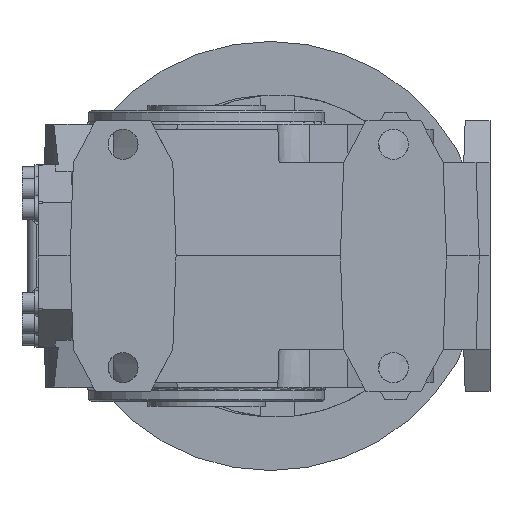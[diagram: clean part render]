
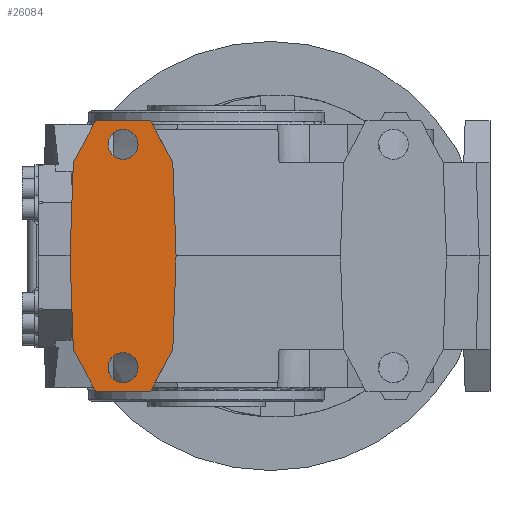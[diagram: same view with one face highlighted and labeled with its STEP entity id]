
A CAD part, left-side view. The second image highlights one B-rep face of the part: STEP entity #26084.
In plain terms, the highlighted planar face has unit normal (-1, 0, 0) as drawn and (1, 0, 0) by its records, which use the part's own axes.
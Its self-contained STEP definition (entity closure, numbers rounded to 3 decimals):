
#20907 = VERTEX_POINT('',#20908);
#20908 = CARTESIAN_POINT('',(262.,59.201,-63.));
#20914 = EDGE_CURVE('',#20915,#20907,#20917,.T.);
#20915 = VERTEX_POINT('',#20916);
#20916 = CARTESIAN_POINT('',(262.,48.818,-43.474));
#20917 = LINE('',#20918,#20919);
#20918 = CARTESIAN_POINT('',(262.,48.818,-43.474));
#20919 = VECTOR('',#20920,1.);
#20920 = DIRECTION('',(0.,0.469,-0.883));
#21306 = VERTEX_POINT('',#21307);
#21307 = CARTESIAN_POINT('',(262.,84.799,-63.));
#21313 = EDGE_CURVE('',#20907,#21306,#21314,.T.);
#21314 = LINE('',#21315,#21316);
#21315 = CARTESIAN_POINT('',(262.,59.201,-63.));
#21316 = VECTOR('',#21317,1.);
#21317 = DIRECTION('',(0.,1.,0.));
#21330 = VERTEX_POINT('',#21331);
#21331 = CARTESIAN_POINT('',(262.,95.182,-43.474));
#21337 = EDGE_CURVE('',#21306,#21330,#21338,.T.);
#21338 = LINE('',#21339,#21340);
#21339 = CARTESIAN_POINT('',(262.,84.799,-63.));
#21340 = VECTOR('',#21341,1.);
#21341 = DIRECTION('',(0.,0.469,0.883));
#21387 = VERTEX_POINT('',#21388);
#21388 = CARTESIAN_POINT('',(262.,96.7,0.));
#21394 = EDGE_CURVE('',#21330,#21387,#21395,.T.);
#21395 = LINE('',#21396,#21397);
#21396 = CARTESIAN_POINT('',(262.,95.182,-43.474));
#21397 = VECTOR('',#21398,1.);
#21398 = DIRECTION('',(0.,0.035,0.999));
#21492 = VERTEX_POINT('',#21493);
#21493 = CARTESIAN_POINT('',(262.,59.201,63.));
#21499 = EDGE_CURVE('',#21500,#21492,#21502,.T.);
#21500 = VERTEX_POINT('',#21501);
#21501 = CARTESIAN_POINT('',(262.,84.799,63.));
#21502 = LINE('',#21503,#21504);
#21503 = CARTESIAN_POINT('',(262.,84.799,63.));
#21504 = VECTOR('',#21505,1.);
#21505 = DIRECTION('',(0.,-1.,0.));
#21562 = VERTEX_POINT('',#21563);
#21563 = CARTESIAN_POINT('',(262.,48.818,43.474));
#21569 = EDGE_CURVE('',#21492,#21562,#21570,.T.);
#21570 = LINE('',#21571,#21572);
#21571 = CARTESIAN_POINT('',(262.,59.201,63.));
#21572 = VECTOR('',#21573,1.);
#21573 = DIRECTION('',(0.,-0.469,-0.883));
#21619 = VERTEX_POINT('',#21620);
#21620 = CARTESIAN_POINT('',(262.,95.182,43.474));
#21626 = EDGE_CURVE('',#21387,#21619,#21627,.T.);
#21627 = LINE('',#21628,#21629);
#21628 = CARTESIAN_POINT('',(262.,96.7,0.));
#21629 = VECTOR('',#21630,1.);
#21630 = DIRECTION('',(0.,-0.035,0.999));
#21679 = EDGE_CURVE('',#21619,#21500,#21680,.T.);
#21680 = LINE('',#21681,#21682);
#21681 = CARTESIAN_POINT('',(262.,95.182,43.474));
#21682 = VECTOR('',#21683,1.);
#21683 = DIRECTION('',(0.,-0.469,0.883));
#26050 = VERTEX_POINT('',#26051);
#26051 = CARTESIAN_POINT('',(262.,47.3,0.));
#26057 = EDGE_CURVE('',#21562,#26050,#26058,.T.);
#26058 = LINE('',#26059,#26060);
#26059 = CARTESIAN_POINT('',(262.,48.818,43.474));
#26060 = VECTOR('',#26061,1.);
#26061 = DIRECTION('',(0.,-0.035,-0.999));
#26074 = EDGE_CURVE('',#26050,#20915,#26075,.T.);
#26075 = LINE('',#26076,#26077);
#26076 = CARTESIAN_POINT('',(262.,47.3,0.));
#26077 = VECTOR('',#26078,1.);
#26078 = DIRECTION('',(0.,0.035,-0.999));
#26084 = ADVANCED_FACE('',(#26085,#26096,#26107),#26119,.T.);
#26085 = FACE_BOUND('',#26086,.T.);
#26086 = EDGE_LOOP('',(#26087));
#26087 = ORIENTED_EDGE('',*,*,#26088,.F.);
#26088 = EDGE_CURVE('',#26089,#26089,#26091,.T.);
#26089 = VERTEX_POINT('',#26090);
#26090 = CARTESIAN_POINT('',(262.,72.,45.));
#26091 = CIRCLE('',#26092,7.);
#26092 = AXIS2_PLACEMENT_3D('',#26093,#26094,#26095);
#26093 = CARTESIAN_POINT('',(262.,72.,52.));
#26094 = DIRECTION('',(1.,0.,0.));
#26095 = DIRECTION('',(0.,0.,-1.));
#26096 = FACE_BOUND('',#26097,.T.);
#26097 = EDGE_LOOP('',(#26098));
#26098 = ORIENTED_EDGE('',*,*,#26099,.F.);
#26099 = EDGE_CURVE('',#26100,#26100,#26102,.T.);
#26100 = VERTEX_POINT('',#26101);
#26101 = CARTESIAN_POINT('',(262.,72.,-59.));
#26102 = CIRCLE('',#26103,7.);
#26103 = AXIS2_PLACEMENT_3D('',#26104,#26105,#26106);
#26104 = CARTESIAN_POINT('',(262.,72.,-52.));
#26105 = DIRECTION('',(1.,0.,0.));
#26106 = DIRECTION('',(0.,0.,-1.));
#26107 = FACE_BOUND('',#26108,.T.);
#26108 = EDGE_LOOP('',(#26109,#26110,#26111,#26112,#26113,#26114,#26115,
    #26116,#26117,#26118));
#26109 = ORIENTED_EDGE('',*,*,#21499,.T.);
#26110 = ORIENTED_EDGE('',*,*,#21569,.T.);
#26111 = ORIENTED_EDGE('',*,*,#26057,.T.);
#26112 = ORIENTED_EDGE('',*,*,#26074,.T.);
#26113 = ORIENTED_EDGE('',*,*,#20914,.T.);
#26114 = ORIENTED_EDGE('',*,*,#21313,.T.);
#26115 = ORIENTED_EDGE('',*,*,#21337,.T.);
#26116 = ORIENTED_EDGE('',*,*,#21394,.T.);
#26117 = ORIENTED_EDGE('',*,*,#21626,.T.);
#26118 = ORIENTED_EDGE('',*,*,#21679,.T.);
#26119 = PLANE('',#26120);
#26120 = AXIS2_PLACEMENT_3D('',#26121,#26122,#26123);
#26121 = CARTESIAN_POINT('',(262.,0.,0.));
#26122 = DIRECTION('',(1.,0.,0.));
#26123 = DIRECTION('',(0.,0.,-1.));
